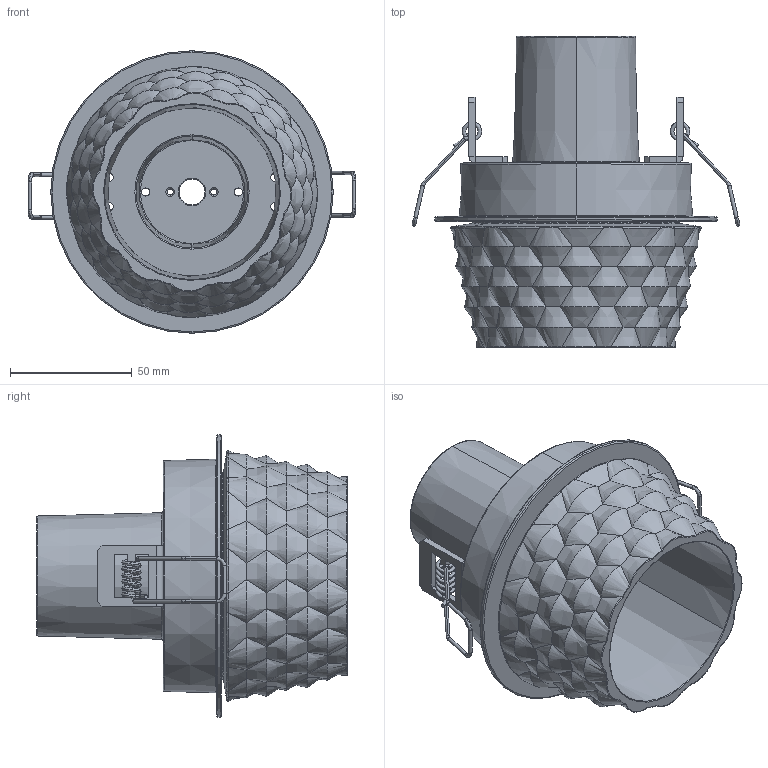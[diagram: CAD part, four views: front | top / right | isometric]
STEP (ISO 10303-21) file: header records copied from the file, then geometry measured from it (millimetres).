
FILE_DESCRIPTION (( 'STEP AP203' ), '1' );
FILE_NAME ('FAFEDORA-PER 3D.STEP', '2024-05-29T10:49:45', ( '' ), ( '' ), 'SwSTEP 2.0', 'SolidWorks 2024', '' );
FILE_SCHEMA (( 'CONFIG_CONTROL_DESIGN' ));
Length unit declared in the file: millimetre
Products named in the file (6): FEDORA-FA-1; AX27-DL-1-02; FEDORA-FA-1-04; FAFEDORA-PER 3D; AX27-DL-1-04; FEDORA-SP1-1-5-01
Assembly tree (7 placements, depth 3):
  FAFEDORA-PER 3D
    FEDORA-FA-1
      FEDORA-FA-1-04
      AX27-DL-1-02  x2
      AX27-DL-1-04  x2
    FEDORA-SP1-1-5-01
Bounding box: 134.67 x 127.8 x 116.08 mm (x, y, z)
Volume: 262208.5 mm3; surface area: 99439.4 mm2
Topology: 6 solids, 6 shells, 475 faces, 1207 edges, 748 vertices
Faces by surface type: bspline 217, torus 87, cylinder 70, plane 69, cone 32
Entity records: 31974 total; most frequent: CARTESIAN_POINT 22666, ORIENTED_EDGE 2088, DIRECTION 1365, EDGE_CURVE 1044, VERTEX_POINT 646, AXIS2_PLACEMENT_3D 530, EDGE_LOOP 440, FACE_OUTER_BOUND 410
